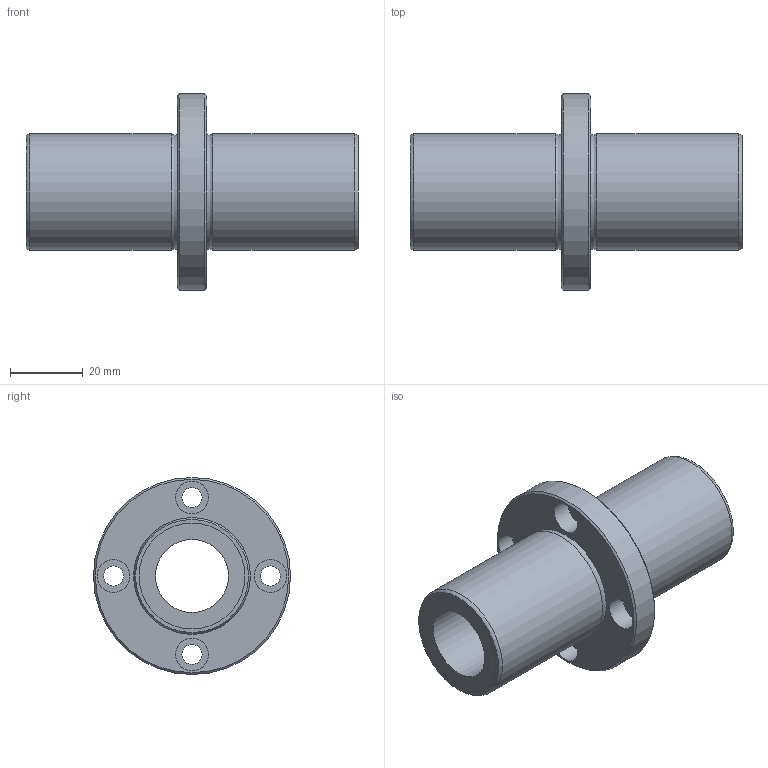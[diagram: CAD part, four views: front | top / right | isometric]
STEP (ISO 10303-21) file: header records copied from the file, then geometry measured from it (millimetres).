
FILE_DESCRIPTION((''),'2;1');
FILE_NAME('D:\製品 (図面)\カタログ用3D\メンテナンスフリー関連\STEP形式\LFDC-MF\LFDC20MF.stp','2010-06-01T15:39:20',('Tsuchiya'),(''),'Autodesk Inventor 10','Autodesk Inventor 10','');
FILE_SCHEMA(('AUTOMOTIVE_DESIGN { 1 0 10303 214 1 1 1 1 }'));
Length unit declared in the file: millimetre
Products named in the file (1): LFDC20MF
Bounding box: 91 x 54 x 54 mm (x, y, z)
Volume: 54621.8 mm3; surface area: 19859.6 mm2
Topology: 1 solids, 1 shells, 30 faces, 54 edges, 34 vertices
Faces by surface type: cylinder 14, plane 10, cone 2, torus 2, bspline 2
Full cylindrical faces by diameter (mm): 5.5 x4, 9 x4, 20 x1, 29 x2, 32 x2, 54 x1
Entity records: 803 total; most frequent: CARTESIAN_POINT 223, DIRECTION 126, ORIENTED_EDGE 68, EDGE_LOOP 68, AXIS2_PLACEMENT_3D 63, FACE_BOUND 38, VERTEX_POINT 34, CIRCLE 34
